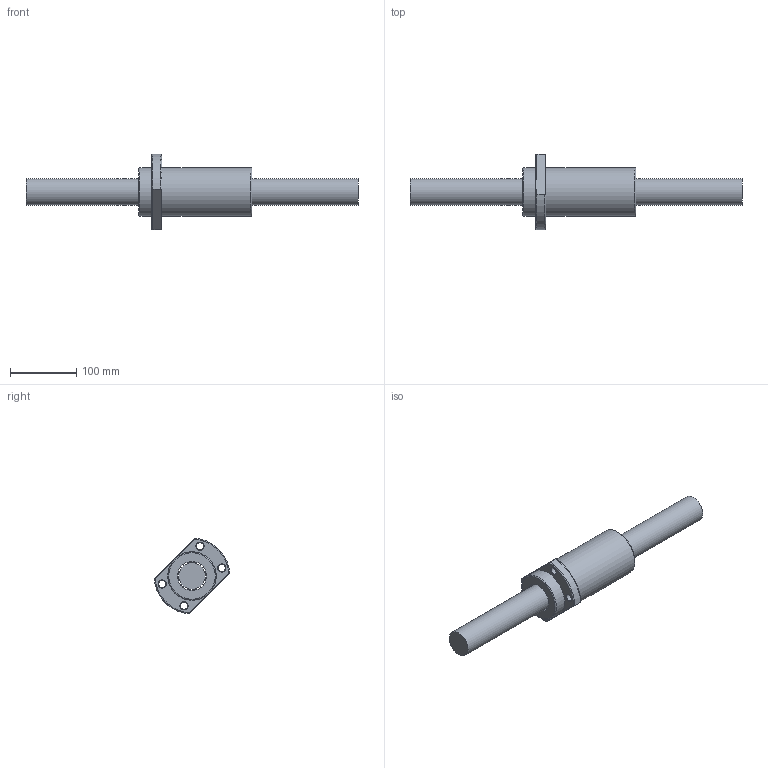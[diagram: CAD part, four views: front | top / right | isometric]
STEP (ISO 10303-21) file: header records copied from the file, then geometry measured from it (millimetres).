
FILE_DESCRIPTION (( 'STEP AP203' ), '1' );
FILE_NAME ('SFY04080-3.6.step', '2024-05-21T08:57:36', ( '' ), ( '' ), 'SwSTEP 2.0', 'SolidWorks 2022', '' );
FILE_SCHEMA (( 'CONFIG_CONTROL_DESIGN' ));
Length unit declared in the file: millimetre
Products named in the file (1): SFY04080-3.6
Bounding box: 500 x 113.74 x 113.74 mm (x, y, z)
Volume: 1132587.8 mm3; surface area: 143144.9 mm2
Topology: 2 solids, 2 shells, 49 faces, 118 edges, 75 vertices
Faces by surface type: cylinder 17, plane 13, cone 9, torus 6, bspline 4
Full cylindrical faces by diameter (mm): 4 x1, 5 x5, 11 x4, 40 x1, 43.8 x1, 73 x2
Entity records: 3019 total; most frequent: CARTESIAN_POINT 2058, DIRECTION 170, ORIENTED_EDGE 156, EDGE_LOOP 80, EDGE_CURVE 78, AXIS2_PLACEMENT_3D 77, VERTEX_POINT 62, FACE_OUTER_BOUND 57
